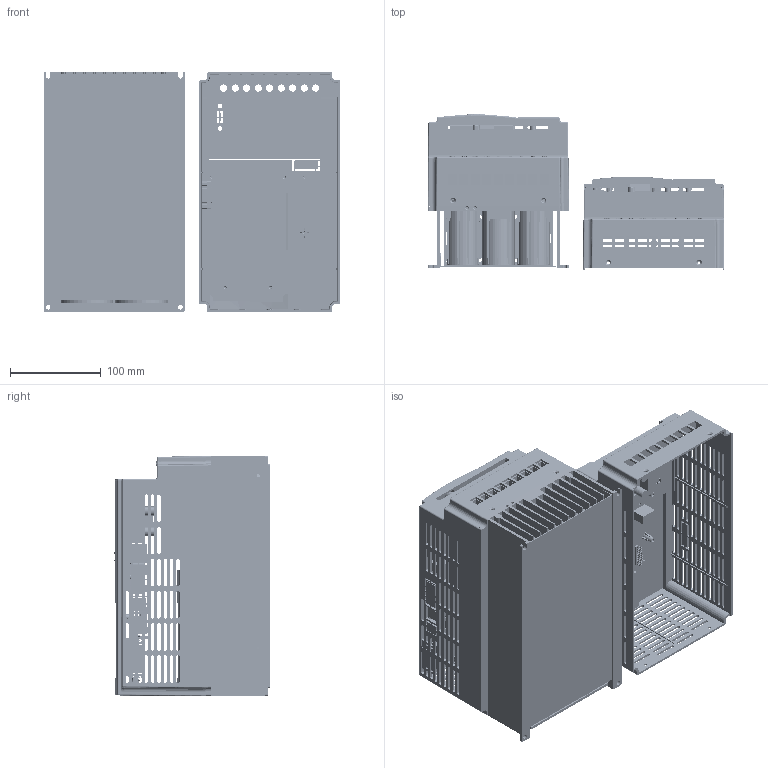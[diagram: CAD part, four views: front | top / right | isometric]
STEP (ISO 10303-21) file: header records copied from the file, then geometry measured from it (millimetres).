
FILE_DESCRIPTION((''),'2;1');
FILE_NAME('E5-ZHUANGPEITI_ASM','2015-09-06T',('yangbin'),(''),'PRO/ENGINEER BY PARAMETRIC TECHNOLOGY CORPORATION, 2013150','PRO/ENGINEER BY PARAMETRIC TECHNOLOGY CORPORATION, 2013150','');
FILE_SCHEMA(('CONFIG_CONTROL_DESIGN'));
Products named in the file (16): SANREQI; FP75R12KT4; TONGZHU; DZTZ; BANJINJIAN; DIANRONGBAN-3-PCB-GENGXIN; JUEYUANZHI; FENGDAODANGBAN; 6025; PRT0002; TOP-BIG; TOP-LITTLE; D0C3CE20; GONGLVDUANZI; SHANGGAI_E5C01-0601-S; E5-ZHUANGPEITI_ASM
Assembly tree (32 placements, depth 2):
  E5-ZHUANGPEITI_ASM
    SANREQI
    FP75R12KT4
    TONGZHU  x4
    DZTZ  x4
    BANJINJIAN  x2
    DIANRONGBAN-3-PCB-GENGXIN
    JUEYUANZHI
    FENGDAODANGBAN
    6025  x2
    PRT0002
    TOP-BIG  x2
    TOP-LITTLE
    D0C3CE20
    GONGLVDUANZI  x9
    SHANGGAI_E5C01-0601-S
Bounding box: 327.6 x 171.44 x 265.46 mm (x, y, z)
Volume: 2110825.9 mm3; surface area: 1567251.7 mm2
Topology: 34 solids, 61 shells, 7802 faces, 21658 edges, 14363 vertices
Faces by surface type: plane 4946, cylinder 1958, extrusion 519, cone 207, bspline 118, sphere 40, torus 14
Entity records: 175244 total; most frequent: CARTESIAN_POINT 45223, ORIENTED_EDGE 28402, DIRECTION 23232, EDGE_CURVE 14243, VECTOR 10542, LINE 10197, VERTEX_POINT 9467, EDGE_LOOP 6346
